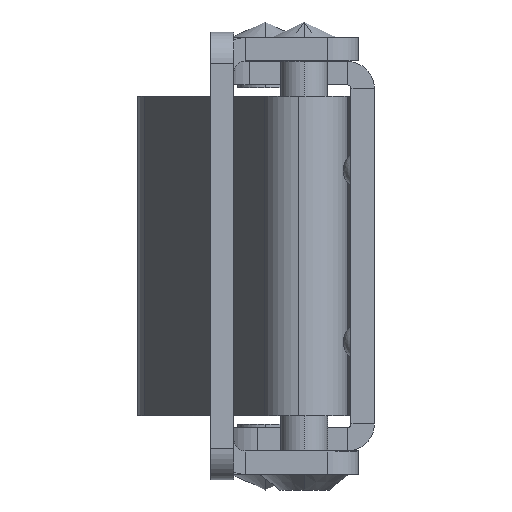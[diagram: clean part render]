
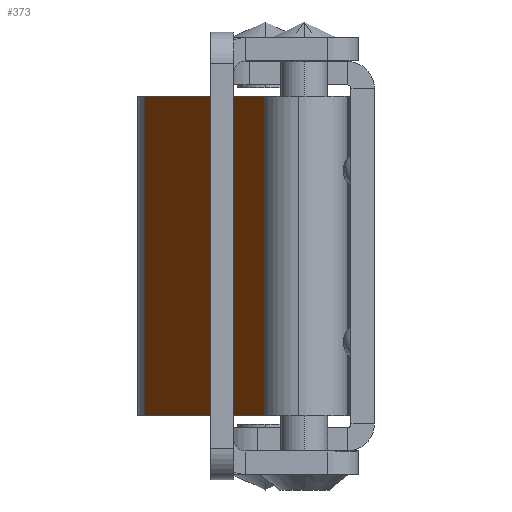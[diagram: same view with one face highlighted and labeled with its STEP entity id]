
A CAD part, left-side view. The second image highlights one B-rep face of the part: STEP entity #373.
In plain terms, the highlighted planar face has unit normal (-0.382, 0.924, 0).
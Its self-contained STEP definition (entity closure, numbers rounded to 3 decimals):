
#373=ADVANCED_FACE('NONE',(#800),#801,.T.);
#800=FACE_OUTER_BOUND('',#1297,.T.);
#801=PLANE('',#1298);
#1297=EDGE_LOOP('',(#2286,#2287,#2288,#2289));
#1298=AXIS2_PLACEMENT_3D('',#2290,#2291,#2292);
#2286=ORIENTED_EDGE('',*,*,#3204,.T.);
#2287=ORIENTED_EDGE('',*,*,#3207,.F.);
#2288=ORIENTED_EDGE('',*,*,#3143,.F.);
#2289=ORIENTED_EDGE('',*,*,#3208,.T.);
#2290=CARTESIAN_POINT('',(13.45,-3.458,10.25));
#2291=DIRECTION('',(-0.382,0.924,0.));
#2292=DIRECTION('',(0.,0.,1.0));
#3143=EDGE_CURVE('NONE',#3805,#3807,#3808,.T.);
#3204=EDGE_CURVE('NONE',#3900,#3898,#3901,.T.);
#3207=EDGE_CURVE('NONE',#3807,#3898,#3904,.T.);
#3208=EDGE_CURVE('NONE',#3805,#3900,#3905,.T.);
#3805=VERTEX_POINT('NONE',#4698);
#3807=VERTEX_POINT('NONE',#4700);
#3808=LINE('',#4701,#4702);
#3898=VERTEX_POINT('NONE',#4819);
#3900=VERTEX_POINT('NONE',#4821);
#3901=LINE('',#4822,#4823);
#3904=LINE('',#4826,#4827);
#3905=LINE('',#4828,#4829);
#4698=CARTESIAN_POINT('',(13.45,-3.458,10.25));
#4700=CARTESIAN_POINT('',(13.45,-3.458,-10.25));
#4701=CARTESIAN_POINT('',(13.45,-3.458,10.25));
#4702=VECTOR('',#5543,1000.0);
#4819=CARTESIAN_POINT('',(32.048,4.228,-10.25));
#4821=CARTESIAN_POINT('',(32.048,4.228,10.25));
#4822=CARTESIAN_POINT('',(32.048,4.228,10.25));
#4823=VECTOR('',#5625,1000.0);
#4826=CARTESIAN_POINT('',(13.45,-3.458,-10.25));
#4827=VECTOR('',#5629,1000.0);
#4828=CARTESIAN_POINT('',(13.45,-3.458,10.25));
#4829=VECTOR('',#5630,1000.0);
#5543=DIRECTION('',(0.,0.,-1.0));
#5625=DIRECTION('',(0.,0.,-1.0));
#5629=DIRECTION('',(0.924,0.382,0.));
#5630=DIRECTION('',(0.924,0.382,0.));
